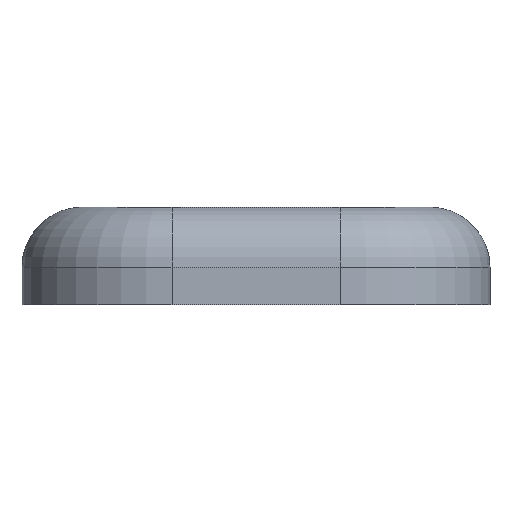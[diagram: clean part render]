
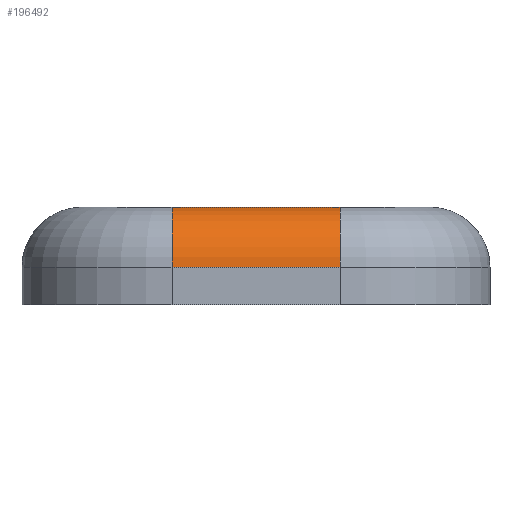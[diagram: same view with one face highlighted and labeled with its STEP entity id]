
A CAD part, front view. The second image highlights one B-rep face of the part: STEP entity #196492.
In plain terms, the highlighted cylindrical face has radius 10 mm (diameter 20 mm), a partial arc.
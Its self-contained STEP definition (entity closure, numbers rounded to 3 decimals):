
#5018 = TOROIDAL_SURFACE('',#5019,15.,10.);
#5019 = AXIS2_PLACEMENT_3D('',#5020,#5021,#5022);
#5020 = CARTESIAN_POINT('',(-14.,-50.,-10.));
#5021 = DIRECTION('',(0.,0.,-1.));
#5022 = DIRECTION('',(-1.,0.,0.));
#5046 = PLANE('',#5047);
#5047 = AXIS2_PLACEMENT_3D('',#5048,#5049,#5050);
#5048 = CARTESIAN_POINT('',(0.,0.,0.));
#5049 = DIRECTION('',(0.,0.,-1.));
#5050 = DIRECTION('',(-1.,0.,0.));
#5265 = PLANE('',#5266);
#5266 = AXIS2_PLACEMENT_3D('',#5267,#5268,#5269);
#5267 = CARTESIAN_POINT('',(14.,-75.,0.));
#5268 = DIRECTION('',(0.,-1.,-0.));
#5269 = DIRECTION('',(-1.,0.,0.));
#96494 = VERTEX_POINT('',#96495);
#96495 = CARTESIAN_POINT('',(14.,-65.,0.));
#96510 = TOROIDAL_SURFACE('',#96511,15.,10.);
#96511 = AXIS2_PLACEMENT_3D('',#96512,#96513,#96514);
#96512 = CARTESIAN_POINT('',(14.,-50.,-10.));
#96513 = DIRECTION('',(0.,0.,-1.));
#96514 = DIRECTION('',(-1.,0.,0.));
#96522 = EDGE_CURVE('',#96494,#96523,#96525,.T.);
#96523 = VERTEX_POINT('',#96524);
#96524 = CARTESIAN_POINT('',(-14.,-65.,0.));
#96525 = SURFACE_CURVE('',#96526,(#96530,#96537),.PCURVE_S1.);
#96526 = LINE('',#96527,#96528);
#96527 = CARTESIAN_POINT('',(7.,-65.,0.));
#96528 = VECTOR('',#96529,1.);
#96529 = DIRECTION('',(-1.,0.,0.));
#96530 = PCURVE('',#5046,#96531);
#96531 = DEFINITIONAL_REPRESENTATION('',(#96532),#96536);
#96532 = LINE('',#96533,#96534);
#96533 = CARTESIAN_POINT('',(-7.,-65.));
#96534 = VECTOR('',#96535,1.);
#96535 = DIRECTION('',(1.,0.));
#96536 = ( GEOMETRIC_REPRESENTATION_CONTEXT(2) 
PARAMETRIC_REPRESENTATION_CONTEXT() REPRESENTATION_CONTEXT('2D SPACE',''
  ) );
#96537 = PCURVE('',#96538,#96543);
#96538 = CYLINDRICAL_SURFACE('',#96539,10.);
#96539 = AXIS2_PLACEMENT_3D('',#96540,#96541,#96542);
#96540 = CARTESIAN_POINT('',(7.,-65.,-10.));
#96541 = DIRECTION('',(-1.,0.,0.));
#96542 = DIRECTION('',(0.,-0.707,
    0.707));
#96543 = DEFINITIONAL_REPRESENTATION('',(#96544),#96548);
#96544 = LINE('',#96545,#96546);
#96545 = CARTESIAN_POINT('',(7.069,0.));
#96546 = VECTOR('',#96547,1.);
#96547 = DIRECTION('',(0.,1.));
#96548 = ( GEOMETRIC_REPRESENTATION_CONTEXT(2) 
PARAMETRIC_REPRESENTATION_CONTEXT() REPRESENTATION_CONTEXT('2D SPACE',''
  ) );
#151254 = VERTEX_POINT('',#151255);
#151255 = CARTESIAN_POINT('',(-14.,-75.,-10.));
#151277 = EDGE_CURVE('',#96523,#151254,#151278,.T.);
#151278 = SURFACE_CURVE('',#151279,(#151284,#151291),.PCURVE_S1.);
#151279 = CIRCLE('',#151280,10.);
#151280 = AXIS2_PLACEMENT_3D('',#151281,#151282,#151283);
#151281 = CARTESIAN_POINT('',(-14.,-65.,-10.));
#151282 = DIRECTION('',(1.,0.,0.));
#151283 = DIRECTION('',(0.,0.,1.));
#151284 = PCURVE('',#5018,#151285);
#151285 = DEFINITIONAL_REPRESENTATION('',(#151286),#151290);
#151286 = LINE('',#151287,#151288);
#151287 = CARTESIAN_POINT('',(4.712,4.712));
#151288 = VECTOR('',#151289,1.);
#151289 = DIRECTION('',(0.,1.));
#151290 = ( GEOMETRIC_REPRESENTATION_CONTEXT(2) 
PARAMETRIC_REPRESENTATION_CONTEXT() REPRESENTATION_CONTEXT('2D SPACE',''
  ) );
#151291 = PCURVE('',#96538,#151292);
#151292 = DEFINITIONAL_REPRESENTATION('',(#151293),#151297);
#151293 = LINE('',#151294,#151295);
#151294 = CARTESIAN_POINT('',(7.069,21.));
#151295 = VECTOR('',#151296,1.);
#151296 = DIRECTION('',(-1.,0.));
#151297 = ( GEOMETRIC_REPRESENTATION_CONTEXT(2) 
PARAMETRIC_REPRESENTATION_CONTEXT() REPRESENTATION_CONTEXT('2D SPACE',''
  ) );
#151331 = VERTEX_POINT('',#151332);
#151332 = CARTESIAN_POINT('',(14.,-75.,-10.));
#151353 = EDGE_CURVE('',#151254,#151331,#151354,.T.);
#151354 = SURFACE_CURVE('',#151355,(#151359,#151366),.PCURVE_S1.);
#151355 = LINE('',#151356,#151357);
#151356 = CARTESIAN_POINT('',(7.,-75.,-10.));
#151357 = VECTOR('',#151358,1.);
#151358 = DIRECTION('',(1.,0.,0.));
#151359 = PCURVE('',#5265,#151360);
#151360 = DEFINITIONAL_REPRESENTATION('',(#151361),#151365);
#151361 = LINE('',#151362,#151363);
#151362 = CARTESIAN_POINT('',(7.,10.));
#151363 = VECTOR('',#151364,1.);
#151364 = DIRECTION('',(-1.,0.));
#151365 = ( GEOMETRIC_REPRESENTATION_CONTEXT(2) 
PARAMETRIC_REPRESENTATION_CONTEXT() REPRESENTATION_CONTEXT('2D SPACE',''
  ) );
#151366 = PCURVE('',#96538,#151367);
#151367 = DEFINITIONAL_REPRESENTATION('',(#151368),#151372);
#151368 = LINE('',#151369,#151370);
#151369 = CARTESIAN_POINT('',(5.498,0.));
#151370 = VECTOR('',#151371,1.);
#151371 = DIRECTION('',(0.,-1.));
#151372 = ( GEOMETRIC_REPRESENTATION_CONTEXT(2) 
PARAMETRIC_REPRESENTATION_CONTEXT() REPRESENTATION_CONTEXT('2D SPACE',''
  ) );
#196468 = EDGE_CURVE('',#96494,#151331,#196469,.T.);
#196469 = SURFACE_CURVE('',#196470,(#196475,#196482),.PCURVE_S1.);
#196470 = CIRCLE('',#196471,10.);
#196471 = AXIS2_PLACEMENT_3D('',#196472,#196473,#196474);
#196472 = CARTESIAN_POINT('',(14.,-65.,-10.));
#196473 = DIRECTION('',(1.,0.,0.));
#196474 = DIRECTION('',(0.,0.,1.));
#196475 = PCURVE('',#96510,#196476);
#196476 = DEFINITIONAL_REPRESENTATION('',(#196477),#196481);
#196477 = LINE('',#196478,#196479);
#196478 = CARTESIAN_POINT('',(4.712,4.712));
#196479 = VECTOR('',#196480,1.);
#196480 = DIRECTION('',(0.,1.));
#196481 = ( GEOMETRIC_REPRESENTATION_CONTEXT(2) 
PARAMETRIC_REPRESENTATION_CONTEXT() REPRESENTATION_CONTEXT('2D SPACE',''
  ) );
#196482 = PCURVE('',#96538,#196483);
#196483 = DEFINITIONAL_REPRESENTATION('',(#196484),#196488);
#196484 = LINE('',#196485,#196486);
#196485 = CARTESIAN_POINT('',(7.069,-7.));
#196486 = VECTOR('',#196487,1.);
#196487 = DIRECTION('',(-1.,0.));
#196488 = ( GEOMETRIC_REPRESENTATION_CONTEXT(2) 
PARAMETRIC_REPRESENTATION_CONTEXT() REPRESENTATION_CONTEXT('2D SPACE',''
  ) );
#196492 = ADVANCED_FACE('',(#196493),#96538,.T.);
#196493 = FACE_BOUND('',#196494,.T.);
#196494 = EDGE_LOOP('',(#196495,#196496,#196497,#196498));
#196495 = ORIENTED_EDGE('',*,*,#151277,.T.);
#196496 = ORIENTED_EDGE('',*,*,#151353,.T.);
#196497 = ORIENTED_EDGE('',*,*,#196468,.F.);
#196498 = ORIENTED_EDGE('',*,*,#96522,.T.);
